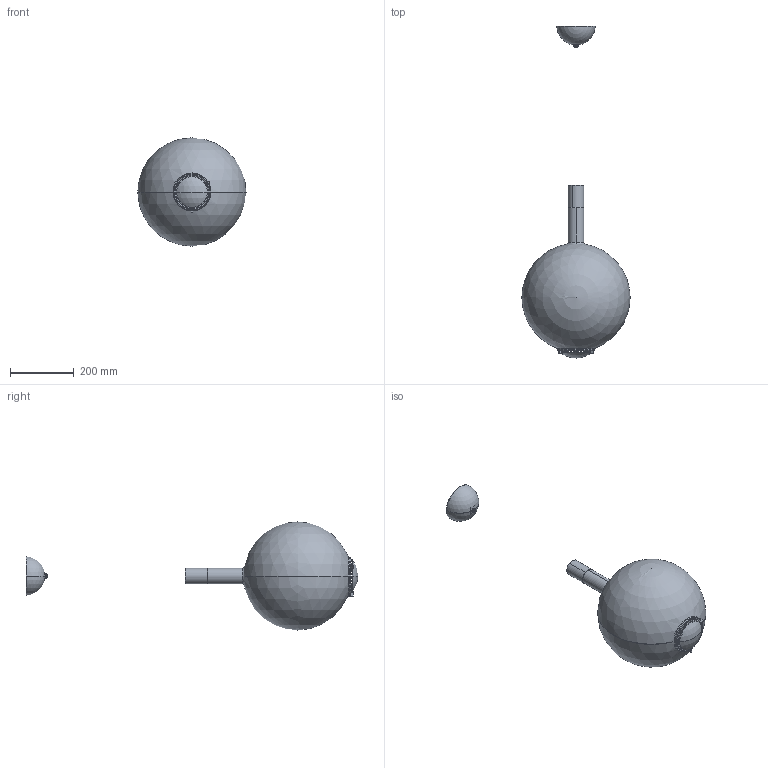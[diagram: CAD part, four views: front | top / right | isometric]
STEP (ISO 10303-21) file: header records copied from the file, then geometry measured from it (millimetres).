
FILE_DESCRIPTION (( 'STEP AP214' ), '1' );
FILE_NAME ('Sky-Fall Round_Large.STEP', '2023-11-21T16:15:48', ( '' ), ( '' ), 'SwSTEP 2.0', 'SolidWorks 2023', '' );
FILE_SCHEMA (( 'AUTOMOTIVE_DESIGN' ));
Length unit declared in the file: millimetre
Products named in the file (25): VIT-TSP_EI_VIT-0064; S201200_Rev00; CeilingPack_06_01-DST; Sky-Fall_Frame-CE_01-DST; VIT-TSP_EI_VIT-0069; S201204_Rev02; S201202_Rev01; S201245_Rev01_sagomata; S201199_Rev00; S201343_Rev02; P200041_Rev02; S201201_Rev03; S201206_Rev04; 223V002_Rev02; S201847_Rev00; S201203_Rev03; VIT-TSP_EI_VIT-0066; S201243_Rev02; Sky-Fall Round_Large; LNS-001_02; S201195_Rev01; S201207_Rev04; S201198_Rev03; LED-023_SDW92F1C_ZC_00; S201196_Rev01
Assembly tree (32 placements, depth 3):
  Sky-Fall Round_Large
    Sky-Fall_Frame-CE_01-DST
      S201196_Rev01
      S201207_Rev04
      S201195_Rev01  x2
      S201206_Rev04
      S201343_Rev02  x3
      LNS-001_02
      LED-023_SDW92F1C_ZC_00  x2
      VIT-TSP_EI_VIT-0069  x3
    CeilingPack_06_01-DST
      S201243_Rev02
      S201847_Rev00  x2
      S201198_Rev03
      S201199_Rev00
    P200041_Rev02
    S201200_Rev00
    S201201_Rev03
    S201202_Rev01
    S201203_Rev03
    S201204_Rev02
    S201245_Rev01_sagomata  x2
    VIT-TSP_EI_VIT-0066
    VIT-TSP_EI_VIT-0064
    223V002_Rev02
Bounding box: 340 x 1043.22 x 340 mm (x, y, z)
Volume: 1017387.3 mm3; surface area: 935718.8 mm2
Topology: 30 solids, 30 shells, 585 faces, 1458 edges, 914 vertices
Faces by surface type: cylinder 286, plane 195, cone 58, torus 30, sphere 12, bspline 4
Entity records: 15068 total; most frequent: CARTESIAN_POINT 2863, DIRECTION 2640, ORIENTED_EDGE 2208, EDGE_CURVE 1104, AXIS2_PLACEMENT_3D 1085, VERTEX_POINT 708, CIRCLE 604, EDGE_LOOP 594
